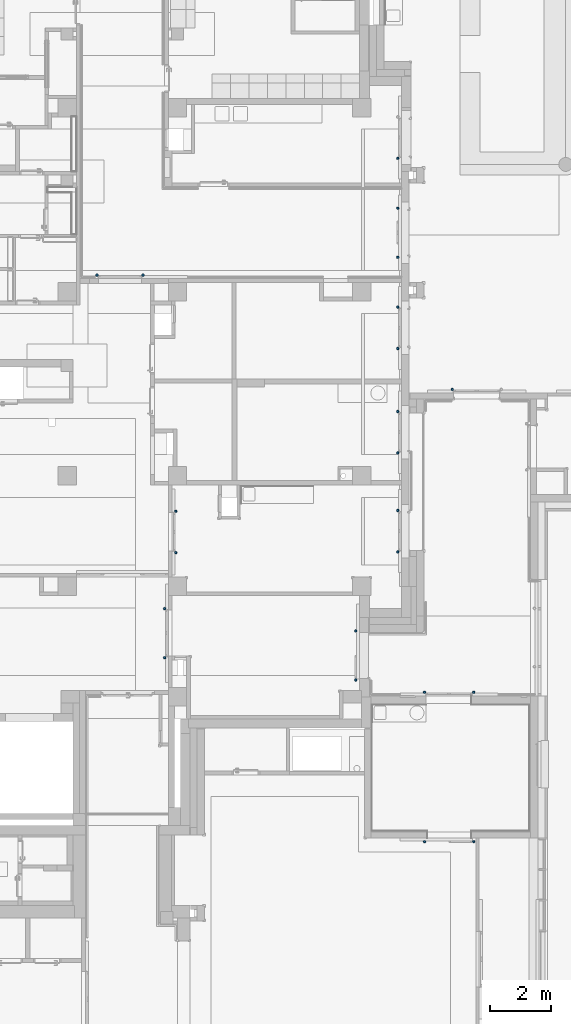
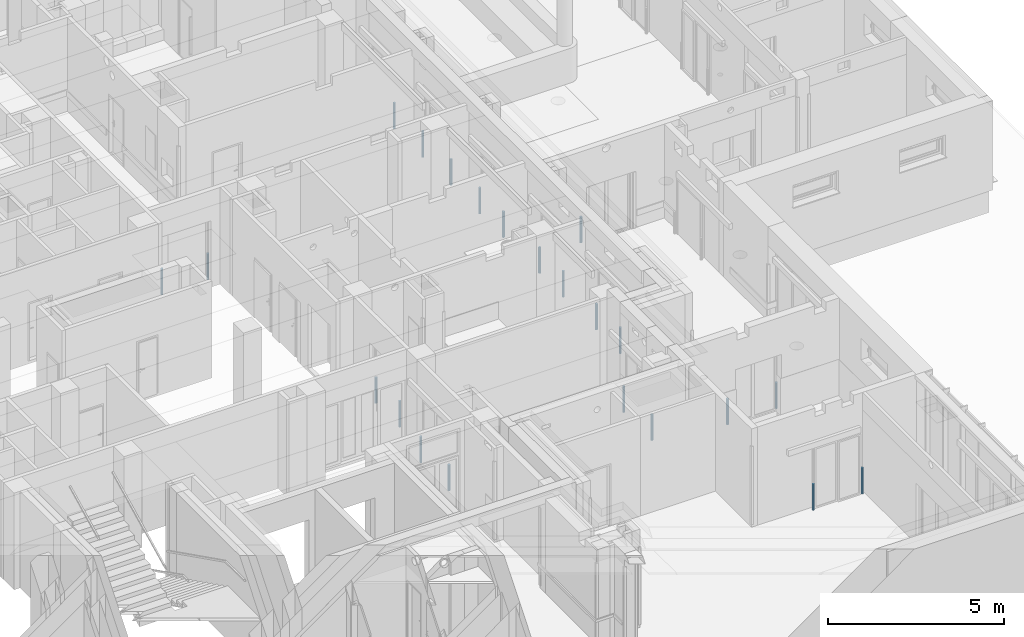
# One storey, part 4 of 140: 22 columns.
"""IFC4 building model written with IfcOpenShell, lengths in metres."""

from ifc_helpers import new_model, entity, si_unit, converted_unit, derived_unit, frame, frame_2d, origin, origin_with_axes, place, context, subcontext, project, spatial, circle, extrude, material, element, save


model = new_model("IFC4")

# Units and contexts
model_context = context("Model", 3, precision=1e-05, world=origin())
body_context = subcontext(model_context, "Body", "Model", "MODEL_VIEW")
ifc_project = project(units=[si_unit("LENGTHUNIT", "METRE"), si_unit("AREAUNIT", "SQUARE_METRE"), si_unit("VOLUMEUNIT", "CUBIC_METRE"), si_unit("MASSUNIT", "GRAM", prefix="KILO"), converted_unit("PLANEANGLEUNIT", "DEGREE", entity("IfcPlaneAngleMeasure", 0.0174532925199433), si_unit("PLANEANGLEUNIT", "RADIAN"), dimensions=[0, 0, 0, 0, 0, 0, 0]), derived_unit("THERMALTRANSMITTANCEUNIT", [(si_unit("POWERUNIT", "WATT"), 1), (si_unit("THERMODYNAMICTEMPERATUREUNIT", "KELVIN"), -1), (si_unit("LENGTHUNIT", "METRE"), -2)]), derived_unit("VOLUMETRICFLOWRATEUNIT", [(si_unit("LENGTHUNIT", "METRE"), 3), (converted_unit("TIMEUNIT", "hour", entity("IfcTimeMeasure", 3600.0), si_unit("TIMEUNIT", "SECOND"), dimensions=[0, 0, 1, 0, 0, 0, 0]), -1), (si_unit("LENGTHUNIT", "METRE"), -1)])], contexts=[model_context])

# Site, building, storey
site_placement = place(None, origin())
site = spatial("IfcSite", under=ifc_project, at=site_placement, Name="3. ASŘ", CompositionType="ELEMENT")
building_placement = place(site_placement, origin())
building = spatial("IfcBuilding", under=site, at=building_placement, Name="Pavilon C", CompositionType="ELEMENT")
storey_placement = place(building_placement, origin())
storey = spatial("IfcBuildingStorey", under=building, at=storey_placement, Name="Půdorys 1.NP", CompositionType="ELEMENT", Elevation=0.0)

# Columns
ifc_material_1 = material(Name="I.OS4")
column_1_placement = place(storey_placement, frame((53.562, 0.112000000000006, 0.0)))
element("IfcColumn", 1, at=column_1_placement, inside=storey, material=ifc_material_1, Name="OCHRANNÝ SLOUPEK", PredefinedType="COLUMN", context=body_context, shape_type="SweptSolid", body=[
    extrude(circle(Radius=0.0380000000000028, at=frame_2d((0.0380000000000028, 0.0380000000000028), x_axis=(1.0, 0.0))), origin_with_axes(), (0.0, 0.0, 1.0), 0.9),
])
ifc_material_2 = material(Name="I.OS4")
column_2_placement = place(storey_placement, frame((51.962, 0.112000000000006, 0.0)))
element("IfcColumn", 2, at=column_2_placement, inside=storey, material=ifc_material_2, Name="OCHRANNÝ SLOUPEK", PredefinedType="COLUMN", context=body_context, shape_type="SweptSolid", body=[
    extrude(circle(Radius=0.0380000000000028, at=frame_2d((0.0380000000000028, 0.0380000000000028), x_axis=(1.0, 0.0))), origin_with_axes(), (0.0, 0.0, 1.0), 0.9),
])
ifc_material_3 = material(Name="I.OS4")
column_3_placement = place(storey_placement, frame((51.092, 6.03699999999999, 0.0)))
element("IfcColumn", 3, at=column_3_placement, inside=storey, material=ifc_material_3, Name="OCHRANNÝ SLOUPEK", PredefinedType="COLUMN", context=body_context, shape_type="SweptSolid", body=[
    extrude(circle(Radius=0.0380000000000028, at=frame_2d((0.0380000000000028, 0.0380000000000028), x_axis=(1.0, 0.0))), origin_with_axes(), (0.0, 0.0, 1.0), 0.9),
])
ifc_material_4 = material(Name="I.OS4")
column_4_placement = place(storey_placement, frame((51.092, 4.68699999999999, 0.0)))
element("IfcColumn", 4, at=column_4_placement, inside=storey, material=ifc_material_4, Name="OCHRANNÝ SLOUPEK", PredefinedType="COLUMN", context=body_context, shape_type="SweptSolid", body=[
    extrude(circle(Radius=0.0380000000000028, at=frame_2d((0.0380000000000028, 0.0380000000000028), x_axis=(1.0, 0.0))), origin_with_axes(), (0.0, 0.0, 1.0), 0.9),
])
ifc_material_5 = material(Name="I.OS4")
column_5_placement = place(storey_placement, frame((51.092, 9.26199999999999, 0.0)))
element("IfcColumn", 5, at=column_5_placement, inside=storey, material=ifc_material_5, Name="OCHRANNÝ SLOUPEK", PredefinedType="COLUMN", context=body_context, shape_type="SweptSolid", body=[
    extrude(circle(Radius=0.0380000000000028, at=frame_2d((0.0380000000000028, 0.0380000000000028), x_axis=(1.0, 0.0))), origin_with_axes(), (0.0, 0.0, 1.0), 0.9),
])
ifc_material_6 = material(Name="I.OS4")
column_6_placement = place(storey_placement, frame((51.092, 7.91199999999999, 0.0)))
element("IfcColumn", 6, at=column_6_placement, inside=storey, material=ifc_material_6, Name="OCHRANNÝ SLOUPEK", PredefinedType="COLUMN", context=body_context, shape_type="SweptSolid", body=[
    extrude(circle(Radius=0.0380000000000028, at=frame_2d((0.0380000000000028, 0.0380000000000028), x_axis=(1.0, 0.0))), origin_with_axes(), (0.0, 0.0, 1.0), 0.9),
])
ifc_material_7 = material(Name="I.OS4")
column_7_placement = place(storey_placement, frame((51.092, 12.662, 0.0)))
element("IfcColumn", 7, at=column_7_placement, inside=storey, material=ifc_material_7, Name="OCHRANNÝ SLOUPEK", PredefinedType="COLUMN", context=body_context, shape_type="SweptSolid", body=[
    extrude(circle(Radius=0.0380000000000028, at=frame_2d((0.0380000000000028, 0.0380000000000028), x_axis=(1.0, 0.0))), origin_with_axes(), (0.0, 0.0, 1.0), 0.9),
])
ifc_material_8 = material(Name="I.OS4")
column_8_placement = place(storey_placement, frame((51.092, 11.312, 0.0)))
element("IfcColumn", 8, at=column_8_placement, inside=storey, material=ifc_material_8, Name="OCHRANNÝ SLOUPEK", PredefinedType="COLUMN", context=body_context, shape_type="SweptSolid", body=[
    extrude(circle(Radius=0.0380000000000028, at=frame_2d((0.0380000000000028, 0.0380000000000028), x_axis=(1.0, 0.0))), origin_with_axes(), (0.0, 0.0, 1.0), 0.9),
])
ifc_material_9 = material(Name="I.OS4")
column_9_placement = place(storey_placement, frame((51.092, 17.512, 0.0)))
element("IfcColumn", 9, at=column_9_placement, inside=storey, material=ifc_material_9, Name="OCHRANNÝ SLOUPEK", PredefinedType="COLUMN", context=body_context, shape_type="SweptSolid", body=[
    extrude(circle(Radius=0.0380000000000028, at=frame_2d((0.0380000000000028, 0.0380000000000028), x_axis=(1.0, 0.0))), origin_with_axes(), (0.0, 0.0, 1.0), 0.9),
])
ifc_material_10 = material(Name="I.OS4")
column_10_placement = place(storey_placement, frame((51.092, 15.887, 0.0)))
element("IfcColumn", 10, at=column_10_placement, inside=storey, material=ifc_material_10, Name="OCHRANNÝ SLOUPEK", PredefinedType="COLUMN", context=body_context, shape_type="SweptSolid", body=[
    extrude(circle(Radius=0.0380000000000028, at=frame_2d((0.0380000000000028, 0.0380000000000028), x_axis=(1.0, 0.0))), origin_with_axes(), (0.0, 0.0, 1.0), 0.9),
])
ifc_material_11 = material(Name="I.OS4")
column_11_placement = place(storey_placement, frame((51.092, 14.287, 0.0)))
element("IfcColumn", 11, at=column_11_placement, inside=storey, material=ifc_material_11, Name="OCHRANNÝ SLOUPEK", PredefinedType="COLUMN", context=body_context, shape_type="SweptSolid", body=[
    extrude(circle(Radius=0.0380000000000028, at=frame_2d((0.0380000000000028, 0.0380000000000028), x_axis=(1.0, 0.0))), origin_with_axes(), (0.0, 0.0, 1.0), 0.9),
])
ifc_material_12 = material(Name="I.OS4")
column_12_placement = place(storey_placement, frame((43.857, 4.66199999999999, 0.0)))
element("IfcColumn", 12, at=column_12_placement, inside=storey, material=ifc_material_12, Name="OCHRANNÝ SLOUPEK", PredefinedType="COLUMN", context=body_context, shape_type="SweptSolid", body=[
    extrude(circle(Radius=0.0380000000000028, at=frame_2d((0.0380000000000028, 0.0380000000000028), x_axis=(1.0, 0.0))), origin_with_axes(), (0.0, 0.0, 1.0), 0.9),
])
ifc_material_13 = material(Name="I.OS4")
column_13_placement = place(storey_placement, frame((43.857, 6.01199999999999, 0.0)))
element("IfcColumn", 13, at=column_13_placement, inside=storey, material=ifc_material_13, Name="OCHRANNÝ SLOUPEK", PredefinedType="COLUMN", context=body_context, shape_type="SweptSolid", body=[
    extrude(circle(Radius=0.0380000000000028, at=frame_2d((0.0380000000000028, 0.0380000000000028), x_axis=(1.0, 0.0))), origin_with_axes(), (0.0, 0.0, 1.0), 0.9),
])
ifc_material_14 = material(Name="I.OS4")
column_14_placement = place(storey_placement, frame((43.492, 2.837, 0.0)))
element("IfcColumn", 14, at=column_14_placement, inside=storey, material=ifc_material_14, Name="OCHRANNÝ SLOUPEK", PredefinedType="COLUMN", context=body_context, shape_type="SweptSolid", body=[
    extrude(circle(Radius=0.0380000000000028, at=frame_2d((0.0380000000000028, 0.0380000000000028), x_axis=(1.0, 0.0))), origin_with_axes(), (0.0, 0.0, 1.0), 0.9),
])
ifc_material_15 = material(Name="I.OS4")
column_15_placement = place(storey_placement, frame((43.492, 1.237, 0.0)))
element("IfcColumn", 15, at=column_15_placement, inside=storey, material=ifc_material_15, Name="OCHRANNÝ SLOUPEK", PredefinedType="COLUMN", context=body_context, shape_type="SweptSolid", body=[
    extrude(circle(Radius=0.0380000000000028, at=frame_2d((0.0380000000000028, 0.0380000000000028), x_axis=(1.0, 0.0))), origin_with_axes(), (0.0, 0.0, 1.0), 0.9),
])
ifc_material_16 = material(Name="I.OS4")
column_16_placement = place(storey_placement, frame((51.962, -4.75800000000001, 0.0)))
element("IfcColumn", 16, at=column_16_placement, inside=storey, material=ifc_material_16, Name="OCHRANNÝ SLOUPEK", PredefinedType="COLUMN", context=body_context, shape_type="SweptSolid", body=[
    extrude(circle(Radius=0.0380000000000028, at=frame_2d((0.0380000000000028, 0.0380000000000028), x_axis=(1.0, 0.0))), origin_with_axes(), (0.0, 0.0, 1.0), 0.9),
])
ifc_material_17 = material(Name="I.OS4")
column_17_placement = place(storey_placement, frame((52.862, 9.98199999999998, 0.0)))
element("IfcColumn", 17, at=column_17_placement, inside=storey, material=ifc_material_17, Name="OCHRANNÝ SLOUPEK", PredefinedType="COLUMN", context=body_context, shape_type="SweptSolid", body=[
    extrude(circle(Radius=0.0380000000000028, at=frame_2d((0.0380000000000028, 0.0380000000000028), x_axis=(1.0, 0.0))), origin_with_axes(), (0.0, 0.0, 1.0), 0.9),
])
ifc_material_18 = material(Name="I.OS4")
column_18_placement = place(storey_placement, frame((53.562, -4.75800000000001, 0.0)))
element("IfcColumn", 18, at=column_18_placement, inside=storey, material=ifc_material_18, Name="OCHRANNÝ SLOUPEK", PredefinedType="COLUMN", context=body_context, shape_type="SweptSolid", body=[
    extrude(circle(Radius=0.0380000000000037, at=frame_2d((0.0380000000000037, 0.0380000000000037), x_axis=(1.0, 0.0))), origin_with_axes(), (0.0, 0.0, 1.0), 0.9),
])
ifc_material_19 = material(Name="I.OS4")
column_19_placement = place(storey_placement, frame((49.722, 2.11200000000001, 0.0)))
element("IfcColumn", 19, at=column_19_placement, inside=storey, material=ifc_material_19, Name="OCHRANNÝ SLOUPEK", PredefinedType="COLUMN", context=body_context, shape_type="SweptSolid", body=[
    extrude(circle(Radius=0.0380000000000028, at=frame_2d((0.0380000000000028, 0.0380000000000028), x_axis=(1.0, 0.0))), origin_with_axes(), (0.0, 0.0, 1.0), 0.9),
])
ifc_material_20 = material(Name="I.OS4")
column_20_placement = place(storey_placement, frame((49.722, 0.512000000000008, 0.0)))
element("IfcColumn", 20, at=column_20_placement, inside=storey, material=ifc_material_20, Name="OCHRANNÝ SLOUPEK", PredefinedType="COLUMN", context=body_context, shape_type="SweptSolid", body=[
    extrude(circle(Radius=0.0380000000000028, at=frame_2d((0.0380000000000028, 0.0380000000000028), x_axis=(1.0, 0.0))), origin_with_axes(), (0.0, 0.0, 1.0), 0.9),
])
ifc_material_21 = material(Name="I.OS4")
column_21_placement = place(storey_placement, frame((42.787, 13.707, 0.0)))
element("IfcColumn", 21, at=column_21_placement, inside=storey, material=ifc_material_21, Name="OCHRANNÝ SLOUPEK", PredefinedType="COLUMN", context=body_context, shape_type="SweptSolid", body=[
    extrude(circle(Radius=0.0380000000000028, at=frame_2d((0.0380000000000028, 0.0380000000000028), x_axis=(1.0, 0.0))), origin_with_axes(), (0.0, 0.0, 1.0), 0.9),
])
ifc_material_22 = material(Name="I.OS4")
column_22_placement = place(storey_placement, frame((41.2867016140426, 13.7068190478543, 0.0)))
element("IfcColumn", 22, at=column_22_placement, inside=storey, material=ifc_material_22, Name="OCHRANNÝ SLOUPEK", PredefinedType="COLUMN", context=body_context, shape_type="SweptSolid", body=[
    extrude(circle(Radius=0.0380000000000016, at=frame_2d((0.0380000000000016, 0.0380000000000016), x_axis=(1.0, 0.0))), origin_with_axes(), (0.0, 0.0, 1.0), 0.9),
])

save(model, "model.ifc")
